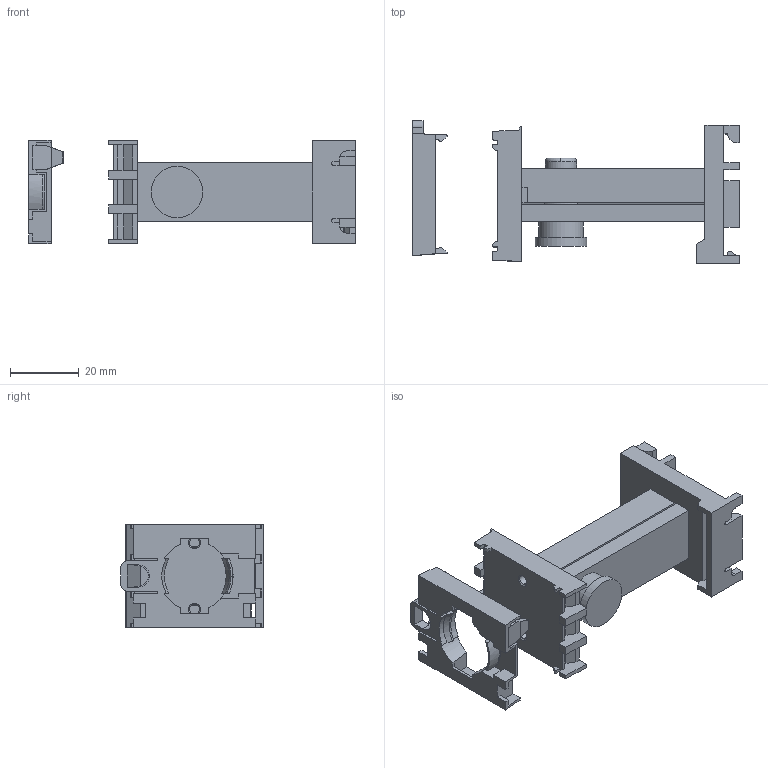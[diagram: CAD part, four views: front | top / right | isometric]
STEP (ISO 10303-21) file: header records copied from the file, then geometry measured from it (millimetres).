
FILE_DESCRIPTION( ( '' ), '1' );
FILE_NAME( '//expscmdclustefs.cadenas.external/client_exchange/iodir/jobs/output/wkb45970536_no0/STEP/216398_2_03.stp', '2012-06-14T14:21:15', ( '' ), ( '' ), ' ', ' ', ' ' );
FILE_SCHEMA( ( 'CONFIG_CONTROL_DESIGN' ) );
Length unit declared in the file: millimetre
Products named in the file (2): 1; 2
Bounding box: 94.7 x 41.4 x 30 mm (x, y, z)
Volume: 31802.2 mm3; surface area: 18808.2 mm2
Topology: 2 solids, 2 shells, 332 faces, 969 edges, 638 vertices
Faces by surface type: plane 270, cylinder 47, cone 13, torus 2
Entity records: 10987 total; most frequent: CARTESIAN_POINT 1968, ORIENTED_EDGE 1938, DIRECTION 1761, EDGE_CURVE 969, LINE 831, VECTOR 831, VERTEX_POINT 638, AXIS2_PLACEMENT_3D 465
